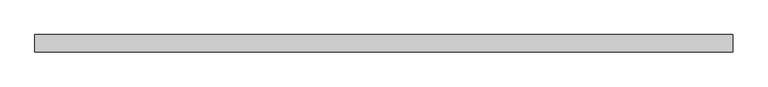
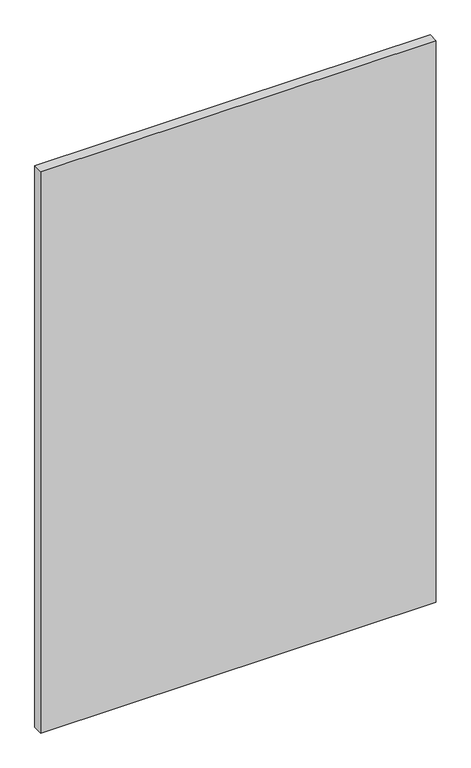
"""IFC4 building model written with IfcOpenShell, lengths in millimetres: plate geometry, 系统嵌板 : 玻璃."""

from ifc_helpers import new_model, si_unit, origin, origin_with_axes, place, context, project, spatial, polyline, outline, extrude, source, transform, mapped, element, save


def plate_da1865bf(model_context):
    return source(origin(), model_context, "Body", "SweptSolid", [
        extrude(outline(polyline([(500.0, -12.5), (-500.0, -12.5), (-500.0, 12.5), (500.0, 12.5), (500.0, -12.5)])), origin_with_axes(), (0.0, 0.0, 1.0), 1500.0),
    ])


if __name__ == "__main__":
    model = new_model("IFC4")
    model_context = context("Model", 3, world=origin())
    ifc_project = project(units=[si_unit("LENGTHUNIT", "METRE", prefix="MILLI")], contexts=[model_context])
    site = spatial("IfcSite", under=ifc_project)
    building = spatial("IfcBuilding", under=site)
    placement = place(None, origin())
    plate_shape = plate_da1865bf(model_context)
    element("IfcPlate", 1, ObjectType="系统嵌板 : 玻璃", at=placement, inside=building, context=model_context, shape_type="MappedRepresentation", body=[
        mapped(plate_shape, transform((0.0, 0.0, 0.0), x_axis=(1.0, 0.0, 0.0), y_axis=(0.0, 1.0, 0.0), z_axis=(0.0, 0.0, 1.0))),
    ])
    save(model, "model.ifc")
